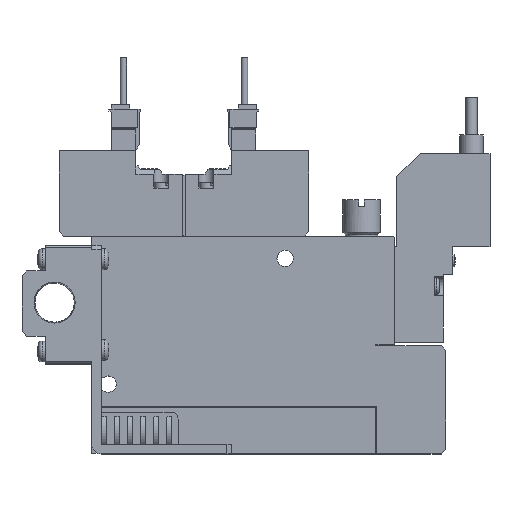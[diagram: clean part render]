
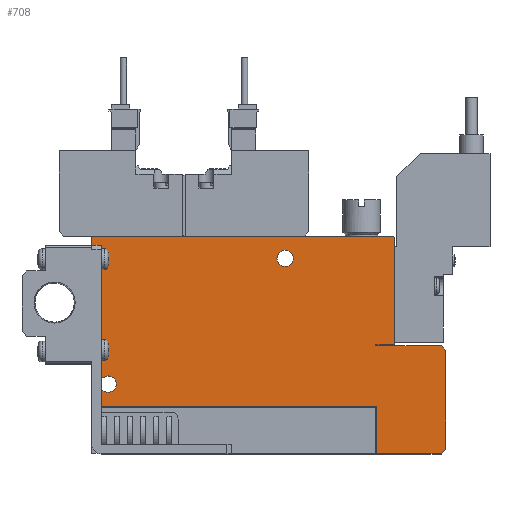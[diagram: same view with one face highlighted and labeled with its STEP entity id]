
A CAD part, top view. The second image highlights one B-rep face of the part: STEP entity #708.
In plain terms, the highlighted planar face has unit normal (0, 0, 1).
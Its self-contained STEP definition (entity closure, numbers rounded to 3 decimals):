
#708=ADVANCED_FACE('',(#1718,#1719,#1720),#1721,.F.);
#1718=FACE_OUTER_BOUND('',#2979,.T.);
#1719=FACE_BOUND('',#2980,.T.);
#1720=FACE_BOUND('',#2981,.T.);
#1721=PLANE('',#2982);
#2979=EDGE_LOOP('',(#6567,#6568,#6569,#6570,#6571,#6572,#6573,#6574,#6575,#6576,#6577,#6578,#6579,#6580));
#2980=EDGE_LOOP('',(#6581));
#2981=EDGE_LOOP('',(#6582));
#2982=AXIS2_PLACEMENT_3D('',#6583,#6584,#6585);
#6567=ORIENTED_EDGE('',*,*,#9096,.T.);
#6568=ORIENTED_EDGE('',*,*,#9168,.F.);
#6569=ORIENTED_EDGE('',*,*,#9169,.F.);
#6570=ORIENTED_EDGE('',*,*,#9170,.T.);
#6571=ORIENTED_EDGE('',*,*,#9171,.T.);
#6572=ORIENTED_EDGE('',*,*,#8920,.T.);
#6573=ORIENTED_EDGE('',*,*,#9114,.T.);
#6574=ORIENTED_EDGE('',*,*,#9100,.T.);
#6575=ORIENTED_EDGE('',*,*,#9172,.T.);
#6576=ORIENTED_EDGE('',*,*,#9173,.T.);
#6577=ORIENTED_EDGE('',*,*,#8947,.T.);
#6578=ORIENTED_EDGE('',*,*,#8944,.T.);
#6579=ORIENTED_EDGE('',*,*,#8951,.T.);
#6580=ORIENTED_EDGE('',*,*,#9112,.T.);
#6581=ORIENTED_EDGE('',*,*,#9174,.F.);
#6582=ORIENTED_EDGE('',*,*,#9175,.F.);
#6583=CARTESIAN_POINT('',(0.0,0.0,5.0));
#6584=DIRECTION('',(0.0,0.0,-1.0));
#6585=DIRECTION('',(0.0,-1.0,0.0));
#8920=EDGE_CURVE('',#10985,#10983,#10986,.T.);
#8944=EDGE_CURVE('',#11031,#11029,#11032,.T.);
#8947=EDGE_CURVE('',#11036,#11031,#11037,.T.);
#8951=EDGE_CURVE('',#11029,#11041,#11043,.T.);
#9096=EDGE_CURVE('',#11297,#11295,#11298,.T.);
#9100=EDGE_CURVE('',#11305,#11303,#11306,.T.);
#9112=EDGE_CURVE('',#11041,#11297,#11324,.T.);
#9114=EDGE_CURVE('',#10983,#11305,#11326,.T.);
#9168=EDGE_CURVE('',#11408,#11295,#11409,.T.);
#9169=EDGE_CURVE('',#11410,#11408,#11411,.T.);
#9170=EDGE_CURVE('',#11410,#11412,#11413,.T.);
#9171=EDGE_CURVE('',#11412,#10985,#11414,.T.);
#9172=EDGE_CURVE('',#11303,#11415,#11416,.T.);
#9173=EDGE_CURVE('',#11415,#11036,#11417,.T.);
#9174=EDGE_CURVE('',#11418,#11418,#11419,.T.);
#9175=EDGE_CURVE('',#11420,#11420,#11421,.T.);
#10983=VERTEX_POINT('',#14439);
#10985=VERTEX_POINT('',#14442);
#10986=LINE('',#14443,#14444);
#11029=VERTEX_POINT('',#14520);
#11031=VERTEX_POINT('',#14523);
#11032=LINE('',#14524,#14525);
#11036=VERTEX_POINT('',#14531);
#11037=LINE('',#14532,#14533);
#11041=VERTEX_POINT('',#14539);
#11043=LINE('',#14542,#14543);
#11295=VERTEX_POINT('',#14967);
#11297=VERTEX_POINT('',#14970);
#11298=LINE('',#14971,#14972);
#11303=VERTEX_POINT('',#14979);
#11305=VERTEX_POINT('',#14982);
#11306=LINE('',#14983,#14984);
#11324=LINE('',#15013,#15014);
#11326=LINE('',#15017,#15018);
#11408=VERTEX_POINT('',#15152);
#11409=LINE('',#15153,#15154);
#11410=VERTEX_POINT('',#15155);
#11411=LINE('',#15156,#15157);
#11412=VERTEX_POINT('',#15158);
#11413=LINE('',#15159,#15160);
#11414=LINE('',#15161,#15162);
#11415=VERTEX_POINT('',#15163);
#11416=LINE('',#15164,#15165);
#11417=LINE('',#15166,#15167);
#11418=VERTEX_POINT('',#15168);
#11419=CIRCLE('',#15169,1.75);
#11420=VERTEX_POINT('',#15170);
#11421=CIRCLE('',#15171,1.75);
#14439=CARTESIAN_POINT('',(76.0,22.25,5.0));
#14442=CARTESIAN_POINT('',(76.0,1.0,5.0));
#14443=CARTESIAN_POINT('',(76.0,1.0,5.0));
#14444=VECTOR('',#17465,1.0);
#14520=CARTESIAN_POINT('',(64.8,46.6,5.0));
#14523=CARTESIAN_POINT('',(65.0,46.4,5.0));
#14524=CARTESIAN_POINT('',(65.0,46.4,5.0));
#14525=VECTOR('',#17499,1.0);
#14531=CARTESIAN_POINT('',(65.0,23.5,5.0));
#14532=CARTESIAN_POINT('',(65.0,23.5,5.0));
#14533=VECTOR('',#17502,1.0);
#14539=CARTESIAN_POINT('',(0.2,46.6,5.0));
#14542=CARTESIAN_POINT('',(64.8,46.6,5.0));
#14543=VECTOR('',#17506,1.0);
#14967=CARTESIAN_POINT('',(0.0,10.1,5.0));
#14970=CARTESIAN_POINT('',(0.0,46.4,5.0));
#14971=CARTESIAN_POINT('',(0.0,46.4,5.0));
#14972=VECTOR('',#17706,1.0);
#14979=CARTESIAN_POINT('',(61.0,23.25,5.0));
#14982=CARTESIAN_POINT('',(75.0,23.25,5.0));
#14983=CARTESIAN_POINT('',(75.0,23.25,5.0));
#14984=VECTOR('',#17710,1.0);
#15013=CARTESIAN_POINT('',(0.2,46.6,5.0));
#15014=VECTOR('',#17722,1.0);
#15017=CARTESIAN_POINT('',(76.0,22.25,5.0));
#15018=VECTOR('',#17724,1.0);
#15152=CARTESIAN_POINT('',(61.1,10.1,5.0));
#15153=CARTESIAN_POINT('',(61.1,10.1,5.0));
#15154=VECTOR('',#17797,1.0);
#15155=CARTESIAN_POINT('',(61.1,0.0,5.0));
#15156=CARTESIAN_POINT('',(61.1,0.0,5.0));
#15157=VECTOR('',#17798,1.0);
#15158=CARTESIAN_POINT('',(75.0,0.0,5.0));
#15159=CARTESIAN_POINT('',(0.0,0.0,5.0));
#15160=VECTOR('',#17799,1.0);
#15161=CARTESIAN_POINT('',(75.0,0.0,5.0));
#15162=VECTOR('',#17800,1.0);
#15163=CARTESIAN_POINT('',(61.0,23.5,5.0));
#15164=CARTESIAN_POINT('',(61.0,23.25,5.0));
#15165=VECTOR('',#17801,1.0);
#15166=CARTESIAN_POINT('',(61.0,23.5,5.0));
#15167=VECTOR('',#17802,1.0);
#15168=CARTESIAN_POINT('',(5.25,15.0,5.0));
#15169=AXIS2_PLACEMENT_3D('',#17803,#17804,#17805);
#15170=CARTESIAN_POINT('',(43.25,42.0,5.0));
#15171=AXIS2_PLACEMENT_3D('',#17806,#17807,#17808);
#17465=DIRECTION('',(0.0,1.0,0.0));
#17499=DIRECTION('',(-0.707,0.707,0.0));
#17502=DIRECTION('',(0.0,1.0,0.0));
#17506=DIRECTION('',(-1.0,0.0,0.0));
#17706=DIRECTION('',(0.0,-1.0,0.0));
#17710=DIRECTION('',(-1.0,0.0,0.0));
#17722=DIRECTION('',(-0.707,-0.707,0.0));
#17724=DIRECTION('',(-0.707,0.707,0.0));
#17797=DIRECTION('',(-1.0,0.0,0.0));
#17798=DIRECTION('',(0.0,1.0,0.0));
#17799=DIRECTION('',(1.0,0.0,0.0));
#17800=DIRECTION('',(0.707,0.707,0.0));
#17801=DIRECTION('',(0.0,1.0,0.0));
#17802=DIRECTION('',(1.0,0.,0.0));
#17803=CARTESIAN_POINT('',(3.5,15.0,5.0));
#17804=DIRECTION('',(0.0,0.0,1.0));
#17805=DIRECTION('',(1.0,0.0,0.0));
#17806=CARTESIAN_POINT('',(41.5,42.0,5.0));
#17807=DIRECTION('',(0.0,0.0,1.0));
#17808=DIRECTION('',(1.0,0.0,0.0));
